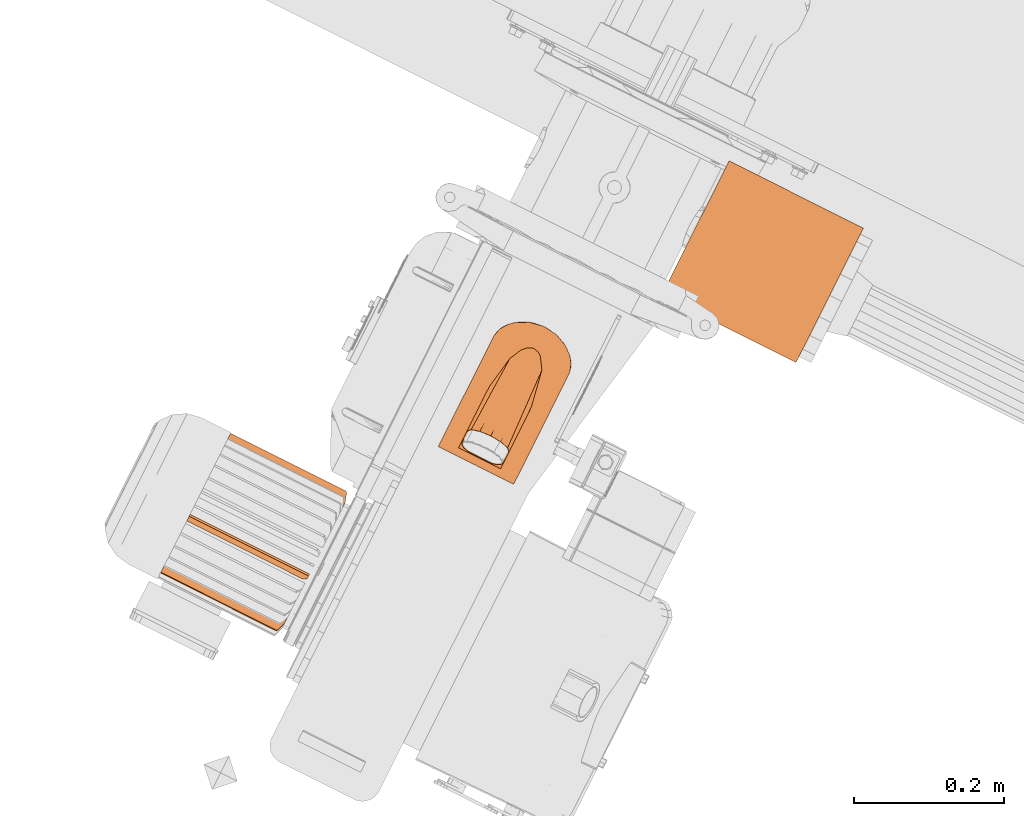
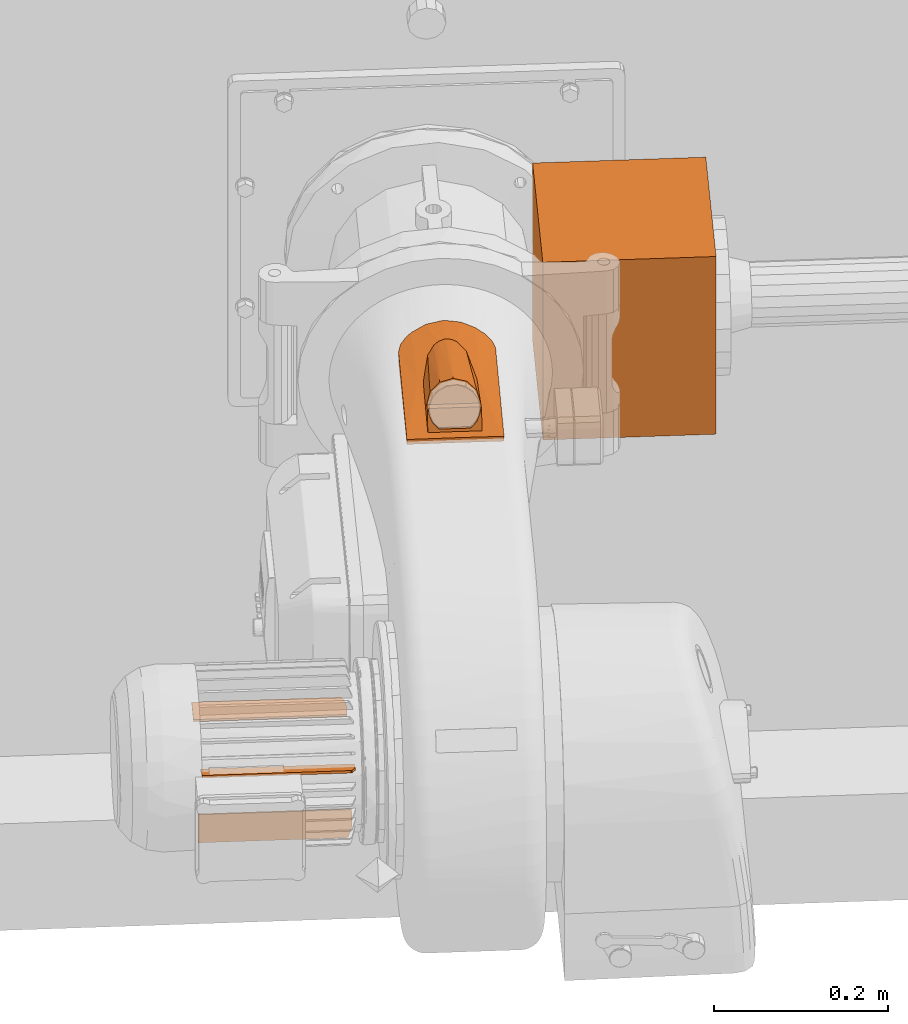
# One storey, part 182 of 206: 5 proxies.
"""IFC2X3 building model written with IfcOpenShell, lengths in metres."""

import ifcopenshell
import ifcopenshell.guid

model = None  # the IFC model being written
_history = None  # IfcOwnerHistory: only IFC2X3 demands one
_inside = {}  # id of a spatial element -> (the spatial element, [elements in it])
_under = {}  # id of a project, library or spatial element -> (it, [spatial elements below it])
_declared = {}  # id of a project -> (the project, [libraries it declares])
_typed = {}  # id of a type object -> (the type object, [elements of that type])
_made_of = {}  # id of a material, layer set ... -> (it, [elements and type objects made of it])


def new_model(schema):
    """Start an empty IFC model of exactly this schema.

    Asked for "IFC4X3", IfcOpenShell would pick the latest addendum, in which some entities
    have other attributes; the version numbers below select the first issue.
    IFC2X3 requires an IfcOwnerHistory on every rooted entity: one is made here for all.
    """
    global model, _history
    if schema == "IFC4X3":
        model = ifcopenshell.file(schema_version=(4, 3, 0, 0))
    else:
        model = ifcopenshell.file(schema=schema)
    _inside.clear()
    _under.clear()
    _declared.clear()
    _typed.clear()
    _made_of.clear()
    _history = None
    if model.schema == "IFC2X3":
        org = make("IfcOrganization", Name="unknown")
        user = make(
            "IfcPersonAndOrganization",
            ThePerson=make("IfcPerson", FamilyName="unknown"),
            TheOrganization=org,
        )
        app = make(
            "IfcApplication",
            ApplicationDeveloper=org,
            Version="unknown",
            ApplicationFullName="unknown",
            ApplicationIdentifier="unknown",
        )
        _history = make(
            "IfcOwnerHistory",
            OwningUser=user,
            OwningApplication=app,
            ChangeAction="ADDED",
            CreationDate=0,
        )
    return model


def make(cls, **values):
    """One entity of the class cls with the attributes given. An attribute that is None is left unset."""
    return model.create_entity(
        cls, **{name: value for name, value in values.items() if value is not None}
    )


def rooted(cls, **values):
    """An entity with a GlobalId (a new one), such as an element, a storey or a relation."""
    return make(cls, GlobalId=ifcopenshell.guid.new(), OwnerHistory=_history, **values)


def si_unit(unit_type, name, prefix=None):
    """IfcSIUnit, for example si_unit("LENGTHUNIT", "METRE", prefix="MILLI")."""
    return make("IfcSIUnit", UnitType=unit_type, Prefix=prefix, Name=name)


def derived_unit(unit_type, elements):
    """IfcDerivedUnit: a product of units, each with its exponent."""
    return make(
        "IfcDerivedUnit",
        Elements=[
            make("IfcDerivedUnitElement", Unit=unit, Exponent=power)
            for unit, power in elements
        ],
        UnitType=unit_type,
    )


def assignment(units):
    """IfcUnitAssignment: the units of a project."""
    return None if units is None else make("IfcUnitAssignment", Units=units)


def point(xyz):
    """IfcCartesianPoint."""
    return None if xyz is None else make("IfcCartesianPoint", Coordinates=xyz)


def direction(xyz):
    """IfcDirection."""
    return None if xyz is None else make("IfcDirection", DirectionRatios=xyz)


def frame(location, z_axis=None, x_axis=None):
    """IfcAxis2Placement3D, a coordinate frame: its origin and axes. An axis left out is left unset."""
    return make(
        "IfcAxis2Placement3D",
        Location=point(location),
        Axis=direction(z_axis),
        RefDirection=direction(x_axis),
    )


def origin():
    """The frame at (0, 0, 0) with its axes left unset."""
    return frame((0.0, 0.0, 0.0))


def place(relative_to, where):
    """IfcLocalPlacement: puts the frame where relative to a parent placement (None: the world)."""
    return make(
        "IfcLocalPlacement", PlacementRelTo=relative_to, RelativePlacement=where
    )


def context(
    kind, dimensions, precision=None, world=None, true_north=None, identifier=None
):
    """IfcGeometricRepresentationContext, for example the 3D "Model" context."""
    return make(
        "IfcGeometricRepresentationContext",
        ContextIdentifier=identifier,
        ContextType=kind,
        CoordinateSpaceDimension=dimensions,
        Precision=precision,
        WorldCoordinateSystem=world,
        TrueNorth=true_north,
    )


def subcontext(parent, identifier, kind, view, scale=None):
    """IfcGeometricRepresentationSubContext, for example "Body" below "Model"."""
    return make(
        "IfcGeometricRepresentationSubContext",
        ContextIdentifier=identifier,
        ContextType=kind,
        ParentContext=parent,
        TargetScale=scale,
        TargetView=view,
    )


def project(units=None, contexts=None):
    """IfcProject with its units and contexts."""
    return rooted(
        "IfcProject",
        Name="project",
        RepresentationContexts=contexts,
        UnitsInContext=assignment(units),
    )


def spatial(cls, under=None, at=None, **own):
    """A site, building, storey or space (cls), placed at a placement, below another one or the project."""
    s = rooted(cls, ObjectPlacement=at, **own)
    if under is not None:
        _under.setdefault(under.id(), (under, []))[1].append(s)
    return s


def faces_of(points, faces, orient=None, outer=None):
    """IfcFace entities. A face is a list of loops; a loop is a list of indices into points, from 0.

    orient and outer hold one flag for each loop. By default every Orientation is true, the
    first loop of a face is its IfcFaceOuterBound and the others are IfcFaceBound.
    """
    made = []
    for i, loops in enumerate(faces):
        bounds = []
        for j, loop in enumerate(loops):
            is_outer = j == 0 if outer is None else outer[i][j]
            bounds.append(
                make(
                    "IfcFaceOuterBound" if is_outer else "IfcFaceBound",
                    Bound=make("IfcPolyLoop", Polygon=[points[k] for k in loop]),
                    Orientation=True if orient is None else orient[i][j],
                )
            )
        made.append(make("IfcFace", Bounds=bounds))
    return made


def faceted_brep(points, faces, orient=None, outer=None, voids=None):
    """IfcFacetedBrep: a solid bounded by flat faces; with voids (closed shells), ...WithVoids."""
    shared = [point(p) for p in points]
    hull = make("IfcClosedShell", CfsFaces=faces_of(shared, faces, orient, outer))
    if voids is None:
        return make("IfcFacetedBrep", Outer=hull)
    return make(
        "IfcFacetedBrepWithVoids",
        Outer=hull,
        Voids=[
            make(cls, CfsFaces=faces_of(shared, fs, o, b)) for cls, fs, o, b in voids
        ],
    )


def shape(context_of_items, identifier, shape_type, items):
    """IfcShapeRepresentation: the items that make up one representation, for example the "Body"."""
    return make(
        "IfcShapeRepresentation",
        ContextOfItems=context_of_items,
        RepresentationIdentifier=identifier,
        RepresentationType=shape_type,
        Items=items,
    )


def source(mapping_origin, context_of_items, identifier, shape_type, items):
    """IfcRepresentationMap: a shape defined once, which mapped items show again and again."""
    return make(
        "IfcRepresentationMap",
        MappingOrigin=mapping_origin,
        MappedRepresentation=shape(context_of_items, identifier, shape_type, items),
    )


def transform(
    local_origin,
    x_axis=None,
    y_axis=None,
    z_axis=None,
    scale=None,
    scale2=None,
    scale3=None,
    uniform=True,
):
    """IfcCartesianTransformationOperator3D, or its non-uniform kind. x_axis, y_axis, z_axis: its Axis1, 2, 3."""
    if uniform:
        return make(
            "IfcCartesianTransformationOperator3D",
            Axis1=direction(x_axis),
            Axis2=direction(y_axis),
            LocalOrigin=point(local_origin),
            Scale=scale,
            Axis3=direction(z_axis),
        )
    return make(
        "IfcCartesianTransformationOperator3DnonUniform",
        Axis1=direction(x_axis),
        Axis2=direction(y_axis),
        LocalOrigin=point(local_origin),
        Scale=scale,
        Axis3=direction(z_axis),
        Scale2=scale2,
        Scale3=scale3,
    )


def mapped(mapping_source, mapping_target):
    """IfcMappedItem: shows the shape of a source again, moved by a transform."""
    return make(
        "IfcMappedItem", MappingSource=mapping_source, MappingTarget=mapping_target
    )


def material(Name=None, Category=None):
    """IfcMaterial."""
    return make("IfcMaterial", Name=Name, Category=Category)


def made_of(thing, what):
    """Note that an element or type object is made of a material, layer set ...; save() writes the relation."""
    if what is not None:
        _made_of.setdefault(what.id(), (what, []))[1].append(thing)
    return thing


def type_object(cls, material=None, **own):
    """A type object (cls), such as IfcWallType, which elements share."""
    return made_of(rooted(cls, **own), material)


def type_shapes(of_type, sources):
    """Give a type object the sources (RepresentationMaps) that its elements show as mapped items."""
    of_type.RepresentationMaps = sources


def element(
    cls,
    number,
    at=None,
    inside=None,
    cuts=None,
    type_object=None,
    material=None,
    context=None,
    identifier="Body",
    shape_type=None,
    held_by="IfcProductDefinitionShape",
    body=None,
    shapes=None,
    **own,
):
    """One element of the class cls, such as IfcWall. Its Tag is "e" and its number.

    at: its placement. inside: the storey or other place that contains it. cuts: it is an
    opening in that element (IfcRelVoidsElement). A single representation is given by context,
    identifier, shape_type and body (its items); several are given by shapes. held_by: the class
    of the entity that holds the representations. save() writes the other relations.
    """
    e = rooted(cls, Tag="e%d" % number, ObjectPlacement=at, **own)
    if body is not None:
        shapes = [shape(context, identifier, shape_type, body)]
    if shapes is not None:
        e.Representation = make(held_by, Representations=shapes)
    if inside is not None:
        _inside.setdefault(inside.id(), (inside, []))[1].append(e)
    if cuts is not None:
        rooted(
            "IfcRelVoidsElement", RelatingBuildingElement=cuts, RelatedOpeningElement=e
        )
    if type_object is not None:
        _typed.setdefault(type_object.id(), (type_object, []))[1].append(e)
    return made_of(e, material)


def aggregate(whole, parts):
    """IfcRelAggregates: a whole, such as a stair, and the parts it consists of."""
    return rooted("IfcRelAggregates", RelatingObject=whole, RelatedObjects=parts)


def save(model, path):
    """Write the relations noted so far, then the file.

    IfcRelAggregates (storeys below a building ...), IfcRelContainedInSpatialStructure (elements
    in a storey), IfcRelDefinesByType, IfcRelAssociatesMaterial and IfcRelDeclares: one each for
    every whole, place, type object, material and project.
    """
    for whole, parts in _under.values():
        aggregate(whole, parts)
    for where, things in _inside.values():
        rooted(
            "IfcRelContainedInSpatialStructure",
            RelatedElements=things,
            RelatingStructure=where,
        )
    for kind, things in _typed.values():
        rooted("IfcRelDefinesByType", RelatedObjects=things, RelatingType=kind)
    for what, things in _made_of.values():
        rooted("IfcRelAssociatesMaterial", RelatedObjects=things, RelatingMaterial=what)
    for by, libraries in _declared.values():
        rooted("IfcRelDeclares", RelatingContext=by, RelatedDefinitions=libraries)
    model.write(path)


model = new_model("IFC2X3")

# Units and contexts
model_context = context("Model", 3, precision=5.2338327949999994e-05, world=origin(), true_north=direction((0.0, 1.0)))
body_context = subcontext(model_context, "Body", "Model", "MODEL_VIEW")
ifc_project = project(units=[si_unit("LENGTHUNIT", "METRE"), si_unit("AREAUNIT", "SQUARE_METRE"), si_unit("VOLUMEUNIT", "CUBIC_METRE"), si_unit("MASSUNIT", "GRAM", prefix="KILO"), si_unit("PLANEANGLEUNIT", "RADIAN"), derived_unit("THERMALTRANSMITTANCEUNIT", [(si_unit("MASSUNIT", "GRAM", prefix="KILO"), 1), (si_unit("THERMODYNAMICTEMPERATUREUNIT", "KELVIN"), -1), (si_unit("TIMEUNIT", "SECOND"), -3)])], contexts=[model_context])

# Site, building, storey
site_placement = place(None, frame((0.0, 0.0, 0.0), z_axis=(0.0, 0.0, 1.0), x_axis=(0.8939966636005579, -0.4480736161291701, 0.0)))
site = spatial("IfcSite", under=ifc_project, at=site_placement, Name="Default", CompositionType="ELEMENT")
building_placement = place(site_placement, origin())
building = spatial("IfcBuilding", under=site, at=building_placement, CompositionType="ELEMENT")
storey_placement = place(building_placement, origin())
storey = spatial("IfcBuildingStorey", under=building, at=storey_placement, Name="Erdgeschoss", CompositionType="ELEMENT", Elevation=0.0)

# Proxies
ifc_material_1 = material(Name="IfcSurfaceStyle #352577")
building_element_proxy_type_1 = type_object("IfcBuildingElementProxyType", Name="Quader 355711:Quader 355711", PredefinedType="NOTDEFINED", material=ifc_material_1)
shared_shape_1 = source(origin(), body_context, "Body", "Brep", [
    faceted_brep([(21.761271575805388, 4.92795839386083, 0.7449999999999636), (21.561271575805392, 4.92795839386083, 0.7449999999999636), (21.561271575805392, 4.92795839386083, 0.9949999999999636), (21.761271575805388, 4.92795839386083, 0.9949999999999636), (21.561271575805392, 4.72795839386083, 0.9949999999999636), (21.761271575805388, 4.72795839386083, 0.9949999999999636), (21.561271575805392, 4.72795839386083, 0.7449999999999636), (21.761271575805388, 4.72795839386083, 0.7449999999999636)], [[[0, 1, 2, 3]], [[3, 2, 4, 5]], [[5, 4, 6, 7]], [[7, 6, 1, 0]], [[0, 3, 5, 7]], [[6, 4, 2, 1]]]),
])
type_shapes(building_element_proxy_type_1, [shared_shape_1])
proxy_1_placement = place(storey_placement, origin())
element("IfcBuildingElementProxy", 1, at=proxy_1_placement, inside=storey, type_object=building_element_proxy_type_1, material=ifc_material_1, Name="Quader", ObjectType="Quader", context=body_context, shape_type="MappedRepresentation", body=[
    mapped(shared_shape_1, transform((0.0, 0.0, 0.0), scale=1.0)),
])
ifc_material_2 = material(Name="IfcSurfaceStyle #626231")
building_element_proxy_type_2 = type_object("IfcBuildingElementProxyType", Name="BuildingElementProxy 36:BuildingElementProxy 36", PredefinedType="NOTDEFINED", material=ifc_material_2)
shared_shape_2 = source(origin(), body_context, "Body", "Brep", [
    faceted_brep([(21.385797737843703, 4.414695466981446, 0.9649843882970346), (21.385797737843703, 4.5786969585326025, 0.9649843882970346), (21.44190595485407, 4.414891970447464, 0.9649843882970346), (21.498014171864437, 4.578696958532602, 0.9649843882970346), (21.498014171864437, 4.4146954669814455, 0.9649843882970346), (21.387240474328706, 4.587172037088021, 0.9649843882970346), (21.39070820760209, 4.595038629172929, 0.9649843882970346), (21.39599116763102, 4.601820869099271, 0.9649843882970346), (21.409435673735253, 4.6121171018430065, 0.9649843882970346), (21.425103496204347, 4.6185425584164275, 0.9649843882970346), (21.44190595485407, 4.620650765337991, 0.9649843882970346), (21.458708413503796, 4.6185425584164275, 0.9649843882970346), (21.474376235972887, 4.612117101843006, 0.9649843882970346), (21.487820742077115, 4.601820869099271, 0.9649843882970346), (21.49310370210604, 4.595038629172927, 0.9649843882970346), (21.496571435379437, 4.587172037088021, 0.9649843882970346), (21.44190595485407, 4.620650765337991, 0.9933197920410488), (21.43896416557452, 4.620605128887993, 0.9932952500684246), (21.41940662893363, 4.616758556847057, 0.9913909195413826), (21.402225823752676, 4.60730112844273, 0.9872381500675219), (21.39599116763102, 4.60182086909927, 0.9851728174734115), (21.388774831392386, 4.591310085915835, 0.9823004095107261), (21.3857977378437, 4.578696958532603, 0.9805858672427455), (21.3857977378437, 4.517745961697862, 0.9770689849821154), (21.3857977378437, 4.423293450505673, 0.9723195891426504), (21.3857977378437, 4.418994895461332, 0.9721231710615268), (21.3857977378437, 4.414695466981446, 0.9719279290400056), (21.44190595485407, 4.414891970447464, 0.9720326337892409), (21.441179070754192, 4.414889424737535, 0.9720322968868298), (21.406982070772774, 4.414769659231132, 0.9719838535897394), (21.386012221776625, 4.414696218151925, 0.9719294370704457), (21.495864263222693, 4.414702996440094, 0.971940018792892), (21.475705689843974, 4.517696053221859, 0.9807055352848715), (21.47478196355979, 4.414776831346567, 0.9719928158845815), (21.473156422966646, 4.425530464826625, 0.9729297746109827), (21.44082283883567, 4.425586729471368, 0.9731380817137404), (21.41065548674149, 4.425521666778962, 0.9728972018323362), (21.404378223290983, 4.517696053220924, 0.9801387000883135), (21.497039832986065, 4.517696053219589, 0.97735091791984), (21.49773608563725, 4.578695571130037, 0.9805556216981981), (21.476342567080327, 4.610940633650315, 0.9885956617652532), (21.487820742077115, 4.601820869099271, 0.985000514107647), (21.4977685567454, 4.5815404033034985, 0.9807050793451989), (21.49444382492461, 4.592576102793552, 0.9824033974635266), (21.441905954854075, 4.588340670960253, 0.9899774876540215), (21.447966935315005, 4.586921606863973, 0.9897262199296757), (21.45993986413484, 4.618205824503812, 0.9920022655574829), (21.453481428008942, 4.583058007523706, 0.9890657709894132), (21.463454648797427, 4.567342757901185, 0.9866587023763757), (21.472862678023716, 4.517655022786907, 0.9810239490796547), (21.47315642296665, 4.50535650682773, 0.9799097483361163), (21.439268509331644, 4.588053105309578, 0.9899305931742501), (21.432085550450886, 4.584548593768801, 0.9893309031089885), (21.426518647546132, 4.578631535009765, 0.988357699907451), (21.41845235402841, 4.562327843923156, 0.9859564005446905), (21.41093791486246, 4.517664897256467, 0.980935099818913), (21.38590497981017, 4.418994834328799, 0.9721245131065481), (21.41065548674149, 4.505631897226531, 0.979835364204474), (21.498014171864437, 4.414695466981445, 0.9718415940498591), (21.498014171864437, 4.578696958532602, 0.9804687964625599), (21.49801417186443, 4.517706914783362, 0.9771472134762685), (21.41065548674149, 4.450554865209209, 0.9947119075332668), (21.41065548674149, 4.431274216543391, 0.9941947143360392), (21.41065548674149, 4.431354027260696, 0.9944901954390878), (21.410655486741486, 4.4327154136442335, 0.9995304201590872), (21.41065548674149, 4.433091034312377, 0.9994289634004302), (21.46038441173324, 4.4265487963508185, 0.9766999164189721), (21.44190595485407, 4.426548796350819, 0.9766999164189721), (21.4234274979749, 4.4265487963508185, 0.9766999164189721), (21.41644074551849, 4.428586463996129, 0.9842439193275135), (21.41244764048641, 4.431274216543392, 0.9941947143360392), (21.412392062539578, 4.4313540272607, 0.9944901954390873), (21.467371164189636, 4.42858646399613, 0.9842439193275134), (21.473156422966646, 4.431274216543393, 0.9941947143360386), (21.47136426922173, 4.431274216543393, 0.994194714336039), (21.471419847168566, 4.431354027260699, 0.9944901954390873), (21.473156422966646, 4.431354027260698, 0.9944901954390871), (21.471876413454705, 4.4327154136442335, 0.9995304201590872), (21.473156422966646, 4.432715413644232, 0.9995304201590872), (21.41193549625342, 4.432715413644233, 0.9995304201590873), (21.473156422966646, 4.450554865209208, 0.9947119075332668), (21.473156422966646, 4.433091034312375, 0.9994289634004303), (21.411897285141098, 4.433091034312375, 0.9994289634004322), (21.412354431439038, 4.43172791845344, 0.9943823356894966), (21.411897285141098, 4.438128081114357, 0.9980684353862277), (21.413257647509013, 4.435794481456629, 0.9894288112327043), (21.412410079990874, 4.431648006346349, 0.9940864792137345), (21.41640825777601, 4.428956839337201, 0.9841230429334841), (21.417215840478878, 4.433671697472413, 0.9815696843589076), (21.423414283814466, 4.426914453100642, 0.9765615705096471), (21.423414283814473, 4.431951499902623, 0.975201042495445), (21.411931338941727, 4.43273624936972, 0.9995247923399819), (21.412443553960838, 4.431294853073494, 0.9941883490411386), (21.41643721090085, 4.4286067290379, 0.9842361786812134), (21.44190595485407, 4.458731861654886, 1.0249853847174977), (21.426272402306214, 4.457626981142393, 1.0208948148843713), (21.414838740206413, 4.454635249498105, 1.0098186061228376), (21.471914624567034, 4.438128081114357, 0.9980684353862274), (21.47055426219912, 4.435794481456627, 0.989428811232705), (21.46659606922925, 4.433671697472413, 0.9815696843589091), (21.460397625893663, 4.431951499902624, 0.9752010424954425), (21.460397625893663, 4.426914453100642, 0.9765615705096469), (21.441905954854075, 4.426914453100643, 0.9765615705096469), (21.471914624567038, 4.433091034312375, 0.999428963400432), (21.4714574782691, 4.43172791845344, 0.9943823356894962), (21.47140182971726, 4.43164800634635, 0.9940864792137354), (21.46740365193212, 4.4289568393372, 0.9841230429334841), (21.4713683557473, 4.431294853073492, 0.9941883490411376), (21.467374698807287, 4.4286067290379, 0.9842361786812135), (21.47188057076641, 4.4327362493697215, 0.999524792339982), (21.468973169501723, 4.4546352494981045, 1.0098186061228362), (21.457539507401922, 4.457626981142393, 1.020894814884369)], [[[0, 1, 2]], [[2, 1, 3]], [[2, 3, 4]], [[5, 6, 1]], [[1, 6, 7]], [[1, 7, 8]], [[8, 9, 1]], [[1, 9, 10]], [[1, 10, 3]], [[3, 10, 11]], [[3, 11, 12]], [[12, 13, 3]], [[3, 13, 14]], [[3, 14, 15]], [[16, 10, 17]], [[17, 10, 9]], [[17, 9, 18]], [[18, 9, 8]], [[18, 8, 19]], [[19, 8, 7]], [[19, 7, 20]], [[7, 6, 20]], [[20, 6, 21]], [[6, 5, 21]], [[21, 5, 22]], [[5, 1, 22]], [[22, 1, 23]], [[23, 1, 0]], [[23, 0, 24]], [[24, 0, 25]], [[0, 26, 25]], [[27, 28, 2]], [[2, 28, 29]], [[2, 29, 0]], [[0, 29, 30]], [[0, 30, 26]], [[31, 32, 33]], [[33, 32, 34]], [[33, 34, 27]], [[27, 34, 35]], [[27, 35, 28]], [[28, 35, 36]], [[28, 36, 29]], [[29, 36, 37]], [[29, 37, 24]], [[24, 37, 23]], [[31, 38, 32]], [[32, 38, 39]], [[32, 39, 40]], [[40, 39, 41]], [[42, 43, 39]], [[39, 43, 41]], [[44, 45, 46]], [[46, 45, 47]], [[46, 47, 40]], [[40, 47, 48]], [[40, 48, 32]], [[32, 48, 49]], [[32, 49, 50]], [[46, 16, 44]], [[44, 16, 17]], [[44, 17, 51]], [[51, 17, 18]], [[51, 18, 52]], [[52, 18, 19]], [[52, 19, 53]], [[53, 19, 54]], [[20, 22, 19]], [[19, 22, 37]], [[19, 37, 54]], [[54, 37, 55]], [[20, 21, 22]], [[22, 23, 37]], [[24, 56, 29]], [[29, 56, 30]], [[50, 34, 32]], [[36, 57, 37]], [[37, 57, 55]], [[27, 2, 33]], [[33, 2, 4]], [[33, 4, 31]], [[31, 4, 58]], [[41, 13, 40]], [[40, 13, 12]], [[40, 12, 46]], [[46, 12, 11]], [[46, 11, 10]], [[10, 16, 46]], [[59, 3, 42]], [[42, 3, 15]], [[42, 15, 43]], [[43, 15, 14]], [[43, 14, 41]], [[41, 14, 13]], [[58, 4, 60]], [[60, 4, 3]], [[60, 3, 59]], [[31, 58, 38]], [[38, 58, 60]], [[38, 60, 59]], [[42, 39, 59]], [[59, 39, 38]], [[30, 56, 26]], [[26, 56, 25]], [[56, 24, 25]], [[57, 36, 61]], [[61, 36, 62]], [[61, 62, 63]], [[64, 65, 63]], [[63, 65, 61]], [[66, 67, 35]], [[35, 67, 68]], [[35, 68, 36]], [[36, 68, 69]], [[36, 69, 62]], [[62, 69, 70]], [[62, 70, 71]], [[35, 34, 66]], [[66, 34, 72]], [[34, 73, 72]], [[72, 73, 74]], [[74, 73, 75]], [[75, 73, 76]], [[75, 76, 77]], [[77, 76, 78]], [[62, 71, 63]], [[63, 71, 79]], [[63, 79, 64]], [[50, 80, 34]], [[34, 80, 73]], [[73, 80, 76]], [[76, 80, 81]], [[76, 81, 78]], [[82, 83, 84]], [[84, 83, 85]], [[83, 86, 85]], [[85, 86, 87]], [[85, 87, 88]], [[88, 87, 89]], [[88, 89, 90]], [[79, 71, 91]], [[91, 71, 83]], [[91, 83, 82]], [[83, 71, 92]], [[92, 71, 70]], [[92, 70, 93]], [[93, 70, 69]], [[93, 69, 68]], [[89, 87, 68]], [[68, 87, 93]], [[93, 87, 92]], [[92, 87, 86]], [[92, 86, 83]], [[44, 51, 94]], [[94, 51, 52]], [[94, 52, 95]], [[95, 52, 53]], [[95, 53, 54]], [[95, 54, 96]], [[96, 54, 55]], [[96, 55, 61]], [[61, 55, 57]], [[97, 84, 98]], [[98, 84, 85]], [[98, 85, 99]], [[99, 85, 88]], [[99, 88, 100]], [[100, 88, 90]], [[101, 100, 102]], [[102, 100, 90]], [[102, 90, 89]], [[101, 102, 66]], [[66, 102, 67]], [[102, 89, 67]], [[67, 89, 68]], [[103, 97, 104]], [[104, 97, 98]], [[104, 98, 105]], [[105, 98, 106]], [[98, 99, 106]], [[106, 99, 101]], [[99, 100, 101]], [[74, 107, 72]], [[72, 107, 108]], [[72, 108, 66]], [[66, 108, 106]], [[66, 106, 101]], [[74, 75, 107]], [[107, 75, 104]], [[107, 104, 105]], [[77, 109, 75]], [[75, 109, 104]], [[109, 103, 104]], [[107, 105, 108]], [[108, 105, 106]], [[50, 49, 80]], [[80, 49, 110]], [[49, 48, 110]], [[110, 48, 111]], [[48, 47, 111]], [[111, 47, 45]], [[111, 45, 94]], [[94, 45, 44]], [[81, 80, 97]], [[97, 80, 61]], [[97, 61, 84]], [[84, 61, 65]], [[84, 65, 82]], [[82, 65, 64]], [[82, 64, 91]], [[91, 64, 79]], [[97, 103, 81]], [[81, 103, 78]], [[103, 109, 78]], [[78, 109, 77]], [[61, 80, 96]], [[96, 80, 110]], [[96, 110, 95]], [[95, 110, 111]], [[95, 111, 94]]]),
])
type_shapes(building_element_proxy_type_2, [shared_shape_2])
proxy_2_placement = place(storey_placement, origin())
element("IfcBuildingElementProxy", 2, at=proxy_2_placement, inside=storey, type_object=building_element_proxy_type_2, material=ifc_material_2, Name="BuildingElementProxy 36", context=body_context, shape_type="MappedRepresentation", body=[
    mapped(shared_shape_2, transform((0.0, 0.0, 0.0), scale=1.0)),
])
ifc_material_3 = material(Name="IfcSurfaceStyle #623543")
building_element_proxy_type_3 = type_object("IfcBuildingElementProxyType", Name="BuildingElementProxy 134:BuildingElementProxy 134", PredefinedType="NOTDEFINED", material=ifc_material_3)
shared_shape_3 = source(origin(), body_context, "Body", "Brep", [
    faceted_brep([(21.308483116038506, 4.132585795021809, 0.7161161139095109), (21.308483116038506, 4.113220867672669, 0.7241373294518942), (21.308483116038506, 4.131437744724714, 0.7133444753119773), (21.308483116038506, 4.112072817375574, 0.7213656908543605), (21.304532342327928, 4.1018374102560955, 0.7288525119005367), (21.301675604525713, 4.099912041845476, 0.7296500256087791), (21.130911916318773, 4.132585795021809, 0.7161161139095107), (21.130911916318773, 4.099912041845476, 0.7296500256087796), (21.302899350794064, 4.100153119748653, 0.7295501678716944), (21.303910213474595, 4.10083441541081, 0.7292679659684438), (21.130911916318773, 4.131437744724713, 0.7133444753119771), (21.130911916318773, 4.098763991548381, 0.7268783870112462), (21.301675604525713, 4.098763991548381, 0.7268783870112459), (21.302899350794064, 4.099005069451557, 0.7267785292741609), (21.303910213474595, 4.099686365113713, 0.7264963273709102), (21.304532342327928, 4.100689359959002, 0.7260808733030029)], [[[0, 1, 2]], [[2, 1, 3]], [[4, 1, 5]], [[5, 1, 0]], [[5, 0, 6]], [[6, 7, 5]], [[5, 8, 4]], [[4, 8, 9]], [[0, 2, 6]], [[6, 2, 10]], [[7, 6, 11]], [[11, 6, 10]], [[7, 11, 5]], [[5, 11, 12]], [[12, 13, 5]], [[5, 13, 8]], [[13, 14, 8]], [[8, 14, 9]], [[14, 15, 9]], [[9, 15, 4]], [[3, 1, 15]], [[15, 1, 4]], [[10, 2, 12]], [[12, 2, 3]], [[12, 3, 15]], [[14, 13, 15]], [[15, 13, 12]], [[12, 11, 10]]]),
])
type_shapes(building_element_proxy_type_3, [shared_shape_3])
proxy_3_placement = place(storey_placement, origin())
element("IfcBuildingElementProxy", 3, at=proxy_3_placement, inside=storey, type_object=building_element_proxy_type_3, material=ifc_material_3, Name="BuildingElementProxy 134", context=body_context, shape_type="MappedRepresentation", body=[
    mapped(shared_shape_3, transform((0.0, 0.0, 0.0), scale=1.0)),
])
building_element_proxy_type_4 = type_object("IfcBuildingElementProxyType", Name="BuildingElementProxy 135:BuildingElementProxy 135", PredefinedType="NOTDEFINED", material=ifc_material_3)
shared_shape_4 = source(origin(), body_context, "Body", "Brep", [
    faceted_brep([(21.308483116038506, 4.271420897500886, 0.6855000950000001), (21.308483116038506, 4.292381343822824, 0.6855000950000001), (21.308483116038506, 4.271420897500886, 0.688500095), (21.308483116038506, 4.292381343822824, 0.6885000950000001), (21.304532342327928, 4.304702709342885, 0.6855000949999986), (21.301675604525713, 4.306786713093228, 0.685500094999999), (21.130911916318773, 4.271420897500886, 0.685500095), (21.130911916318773, 4.306786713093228, 0.6855000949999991), (21.302899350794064, 4.306525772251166, 0.6855000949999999), (21.303910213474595, 4.305788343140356, 0.6855000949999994), (21.130911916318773, 4.271420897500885, 0.6885000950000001), (21.130911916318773, 4.306786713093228, 0.6885000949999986), (21.301675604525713, 4.306786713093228, 0.6885000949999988), (21.302899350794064, 4.306525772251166, 0.6885000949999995), (21.303910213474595, 4.305788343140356, 0.6885000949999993), (21.304532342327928, 4.304702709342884, 0.6885000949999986)], [[[0, 1, 2]], [[2, 1, 3]], [[4, 1, 5]], [[5, 1, 0]], [[5, 0, 6]], [[6, 7, 5]], [[5, 8, 4]], [[4, 8, 9]], [[0, 2, 6]], [[6, 2, 10]], [[7, 6, 11]], [[11, 6, 10]], [[7, 11, 5]], [[5, 11, 12]], [[12, 13, 5]], [[5, 13, 8]], [[13, 14, 8]], [[8, 14, 9]], [[14, 15, 9]], [[9, 15, 4]], [[3, 1, 15]], [[15, 1, 4]], [[10, 2, 12]], [[12, 2, 3]], [[12, 3, 15]], [[14, 13, 15]], [[15, 13, 12]], [[12, 11, 10]]]),
])
type_shapes(building_element_proxy_type_4, [shared_shape_4])
proxy_4_placement = place(storey_placement, origin())
element("IfcBuildingElementProxy", 4, at=proxy_4_placement, inside=storey, type_object=building_element_proxy_type_4, material=ifc_material_3, Name="BuildingElementProxy 135", context=body_context, shape_type="MappedRepresentation", body=[
    mapped(shared_shape_4, transform((0.0, 0.0, 0.0), scale=1.0)),
])
building_element_proxy_type_5 = type_object("IfcBuildingElementProxyType", Name="BuildingElementProxy 136:BuildingElementProxy 136", PredefinedType="NOTDEFINED", material=ifc_material_3)
shared_shape_5 = source(origin(), body_context, "Body", "Brep", [
    faceted_brep([(21.308483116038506, 4.183350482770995, 0.6162225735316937), (21.308483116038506, 4.179261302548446, 0.5956648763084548), (21.308483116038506, 4.1862928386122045, 0.6156373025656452), (21.308483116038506, 4.182203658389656, 0.5950796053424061), (21.304532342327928, 4.176857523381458, 0.5835802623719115), (21.301675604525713, 4.176450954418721, 0.5815363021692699), (21.130911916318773, 4.183350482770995, 0.6162225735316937), (21.130911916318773, 4.176450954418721, 0.58153630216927), (21.302899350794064, 4.1765018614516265, 0.5817922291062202), (21.303910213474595, 4.176645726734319, 0.5825154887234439), (21.130911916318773, 4.1862928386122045, 0.6156373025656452), (21.130911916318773, 4.17939331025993, 0.5809510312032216), (21.301675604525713, 4.179393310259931, 0.5809510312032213), (21.302899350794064, 4.179444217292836, 0.5812069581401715), (21.303910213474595, 4.179588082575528, 0.5819302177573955), (21.304532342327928, 4.179799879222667, 0.5829949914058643)], [[[0, 1, 2]], [[2, 1, 3]], [[4, 1, 5]], [[5, 1, 0]], [[5, 0, 6]], [[6, 7, 5]], [[5, 8, 4]], [[4, 8, 9]], [[0, 2, 6]], [[6, 2, 10]], [[7, 6, 11]], [[11, 6, 10]], [[7, 11, 5]], [[5, 11, 12]], [[12, 13, 5]], [[5, 13, 8]], [[13, 14, 8]], [[8, 14, 9]], [[14, 15, 9]], [[9, 15, 4]], [[3, 1, 15]], [[15, 1, 4]], [[10, 2, 12]], [[12, 2, 3]], [[12, 3, 15]], [[14, 13, 15]], [[15, 13, 12]], [[12, 11, 10]]]),
])
type_shapes(building_element_proxy_type_5, [shared_shape_5])
proxy_5_placement = place(storey_placement, origin())
element("IfcBuildingElementProxy", 5, at=proxy_5_placement, inside=storey, type_object=building_element_proxy_type_5, material=ifc_material_3, Name="BuildingElementProxy 136", context=body_context, shape_type="MappedRepresentation", body=[
    mapped(shared_shape_5, transform((0.0, 0.0, 0.0), scale=1.0)),
])

save(model, "model.ifc")
